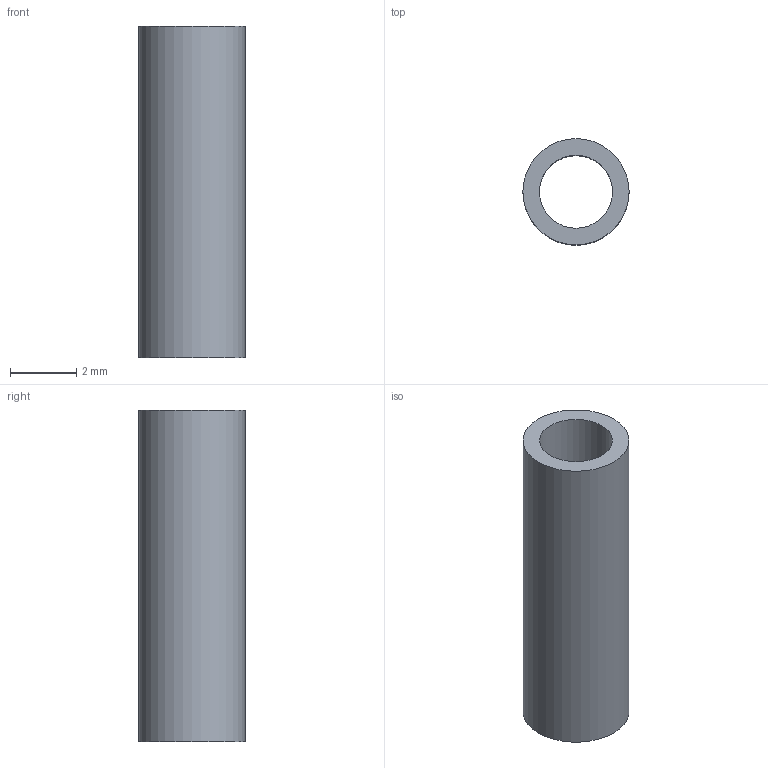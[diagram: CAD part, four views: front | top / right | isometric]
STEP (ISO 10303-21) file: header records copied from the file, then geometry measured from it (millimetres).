
FILE_DESCRIPTION(('Open CASCADE Model'),'2;1');
FILE_NAME('Open CASCADE Shape Model','2026-10-13T11:47:37',('Author'),( 'Open CASCADE'),'Open CASCADE STEP processor 7.8','Open CASCADE 7.8' ,'Unknown');
FILE_SCHEMA(('AUTOMOTIVE_DESIGN { 1 0 10303 214 1 1 1 1 }'));
Length unit declared in the file: millimetre
Products named in the file (1): Open CASCADE STEP translator 7.8 68
Bounding box: 3.2 x 3.2 x 10 mm (x, y, z)
Volume: 42.4 mm3; surface area: 178.1 mm2
Topology: 1 solids, 1 shells, 4 faces, 6 edges, 4 vertices
Faces by surface type: cylinder 2, plane 2
Full cylindrical faces by diameter (mm): 2.2 x1, 3.2 x1
Entity records: 186 total; most frequent: DIRECTION 32, CARTESIAN_POINT 27, ORIENTED_EDGE 12, PCURVE 12, DEFINITIONAL_REPRESENTATION 12, LINE 10, VECTOR 10, AXIS2_PLACEMENT_3D 9
